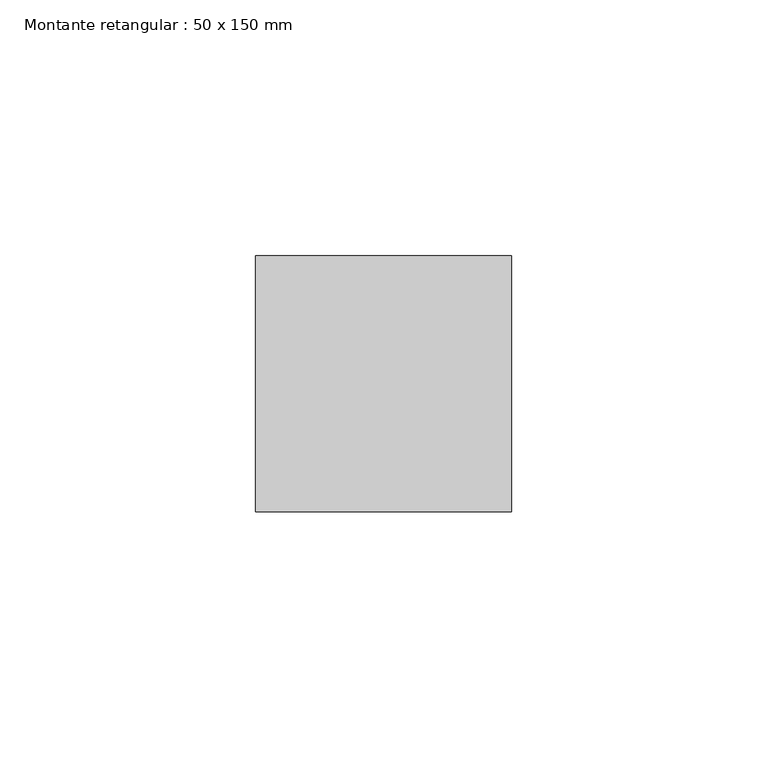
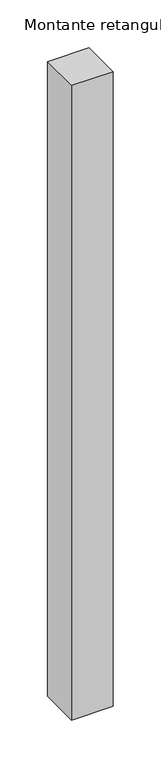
"""IFC4 building model written with IfcOpenShell, lengths in millimetres: member geometry, Montante retangular : 50 x 150 mm."""

from ifc_helpers import new_model, si_unit, frame, origin, place, context, project, spatial, polyline, outline, extrude, source, transform, mapped, element, save


def montante_retangular_50_x_150_mm_a1400a6d(model_context):
    return source(origin(), model_context, "Body", "SweptSolid", [
        extrude(outline(polyline([(25.0, 25.0), (25.0, -25.0), (-25.0, -25.0), (-25.0, 25.0), (25.0, 25.0)])), frame((0.0, 0.0, -810.0), z_axis=(0.0, 0.0, 1.0), x_axis=(1.0, 0.0, 0.0)), (0.0, 0.0, 1.0), 810.0),
    ])


if __name__ == "__main__":
    model = new_model("IFC4")
    model_context = context("Model", 3, world=origin())
    ifc_project = project(units=[si_unit("LENGTHUNIT", "METRE", prefix="MILLI")], contexts=[model_context])
    site = spatial("IfcSite", under=ifc_project)
    building = spatial("IfcBuilding", under=site)
    placement = place(None, origin())
    montante_retangular_50_x_150_mm_shape = montante_retangular_50_x_150_mm_a1400a6d(model_context)
    element("IfcMember", 1, ObjectType="Montante retangular : 50 x 150 mm", at=placement, inside=building, context=model_context, shape_type="MappedRepresentation", body=[
        mapped(montante_retangular_50_x_150_mm_shape, transform((0.0, 0.0, 0.0), x_axis=(1.0, 0.0, 0.0), y_axis=(0.0, 1.0, 0.0), z_axis=(0.0, 0.0, 1.0))),
    ])
    save(model, "model.ifc")
